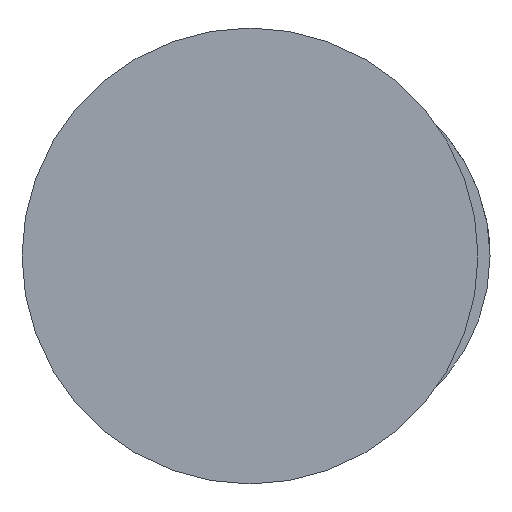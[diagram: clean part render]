
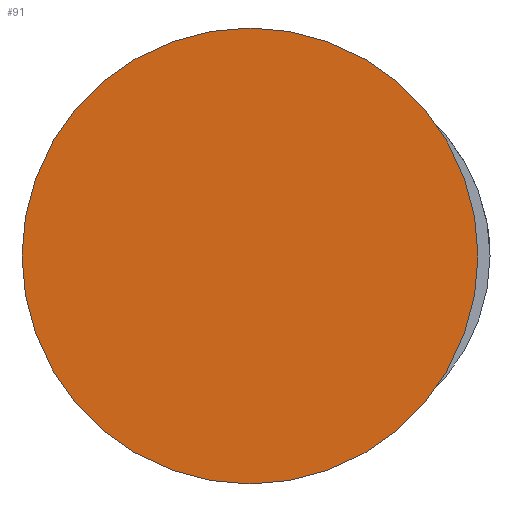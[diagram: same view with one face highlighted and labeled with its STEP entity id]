
A CAD part, left-side view. The second image highlights one B-rep face of the part: STEP entity #91.
In plain terms, the highlighted planar face has unit normal (-1, 0, 0).
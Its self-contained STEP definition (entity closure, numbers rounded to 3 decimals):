
#52=CARTESIAN_POINT('Axis2P3D Location',(0.,0.,0.)) ;
#57=CARTESIAN_POINT('Axis2P3D Location',(0.,0.,0.)) ;
#61=CARTESIAN_POINT('Vertex',(0.,0.,-47.5)) ;
#63=CARTESIAN_POINT('Vertex',(0.,47.5,0.)) ;
#66=CARTESIAN_POINT('Axis2P3D Location',(0.,0.,0.)) ;
#70=CARTESIAN_POINT('Vertex',(0.,-47.5,0.)) ;
#73=CARTESIAN_POINT('Axis2P3D Location',(0.,0.,0.)) ;
#77=CARTESIAN_POINT('Vertex',(0.,0.,47.5)) ;
#80=CARTESIAN_POINT('Axis2P3D Location',(0.,0.,0.)) ;
#53=DIRECTION('Axis2P3D Direction',(1.,0.,-0.)) ;
#54=DIRECTION('Axis2P3D XDirection',(-0.,0.,-1.)) ;
#58=DIRECTION('Axis2P3D Direction',(1.,0.,-0.)) ;
#67=DIRECTION('Axis2P3D Direction',(1.,0.,-0.)) ;
#74=DIRECTION('Axis2P3D Direction',(1.,0.,-0.)) ;
#81=DIRECTION('Axis2P3D Direction',(1.,0.,-0.)) ;
#55=AXIS2_PLACEMENT_3D('Plane Axis2P3D',#52,#53,#54) ;
#59=AXIS2_PLACEMENT_3D('Circle Axis2P3D',#57,#58,$) ;
#68=AXIS2_PLACEMENT_3D('Circle Axis2P3D',#66,#67,$) ;
#75=AXIS2_PLACEMENT_3D('Circle Axis2P3D',#73,#74,$) ;
#82=AXIS2_PLACEMENT_3D('Circle Axis2P3D',#80,#81,$) ;
#86=ORIENTED_EDGE('',*,*,#65,.F.) ;
#87=ORIENTED_EDGE('',*,*,#72,.F.) ;
#88=ORIENTED_EDGE('',*,*,#79,.F.) ;
#89=ORIENTED_EDGE('',*,*,#84,.F.) ;
#91=ADVANCED_FACE('395PSF-6',(#90),#56,.F.) ;
#60=CIRCLE('generated circle',#59,47.5) ;
#69=CIRCLE('generated circle',#68,47.5) ;
#76=CIRCLE('generated circle',#75,47.5) ;
#83=CIRCLE('generated circle',#82,47.5) ;
#65=EDGE_CURVE('',#62,#64,#60,.T.) ;
#72=EDGE_CURVE('',#71,#62,#69,.T.) ;
#79=EDGE_CURVE('',#78,#71,#76,.T.) ;
#84=EDGE_CURVE('',#64,#78,#83,.T.) ;
#85=EDGE_LOOP('',(#86,#87,#88,#89)) ;
#90=FACE_OUTER_BOUND('',#85,.T.) ;
#56=PLANE('Plane',#55) ;
#62=VERTEX_POINT('',#61) ;
#64=VERTEX_POINT('',#63) ;
#71=VERTEX_POINT('',#70) ;
#78=VERTEX_POINT('',#77) ;
